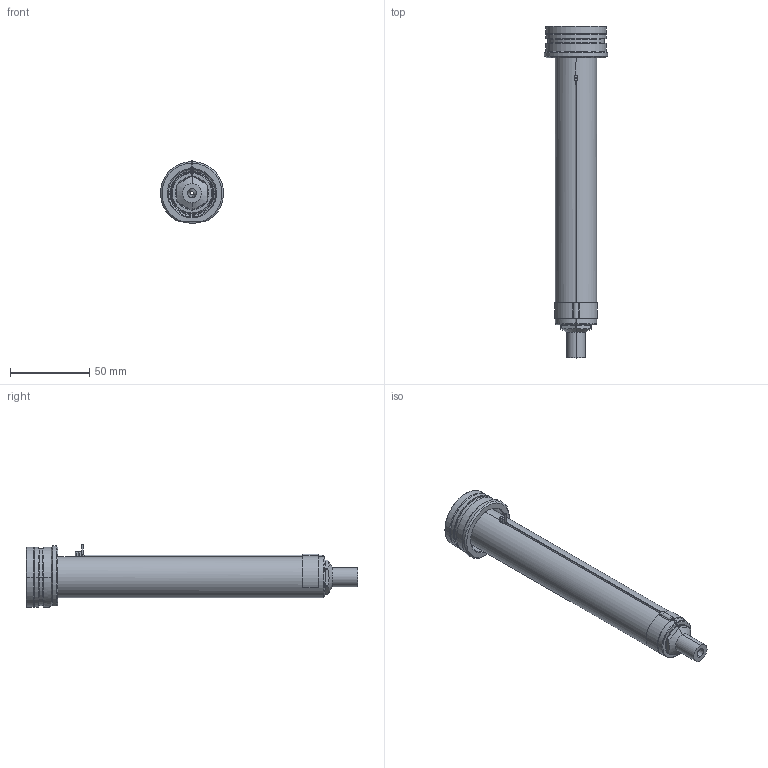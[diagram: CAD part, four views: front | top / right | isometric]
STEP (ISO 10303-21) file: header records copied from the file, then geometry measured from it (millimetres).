
FILE_DESCRIPTION((''),'2;1');
FILE_NAME('EO08_VG-ST_ESG_180_SW','2024-02-19T12:44:58',('sundharh'),(''),'CREO PARAMETRIC BY PTC INC, 2023154','CREO PARAMETRIC BY PTC INC, 2023154','');
FILE_SCHEMA(('CONFIG_CONTROL_DESIGN'));
Length unit declared in the file: millimetre
Products named in the file (1): EO08_VG-ST_ESG_180_SW
Bounding box: 39.88 x 210 x 39.52 mm (x, y, z)
Volume: 103592.4 mm3; surface area: 27977.8 mm2
Topology: 1 solids, 1 shells, 174 faces, 438 edges, 269 vertices
Faces by surface type: cylinder 64, plane 44, cone 37, torus 19, bspline 8, sphere 2
Entity records: 6560 total; most frequent: CARTESIAN_POINT 2296, DIRECTION 941, ORIENTED_EDGE 868, EDGE_CURVE 434, AXIS2_PLACEMENT_3D 390, VERTEX_POINT 269, CIRCLE 224, EDGE_LOOP 189
